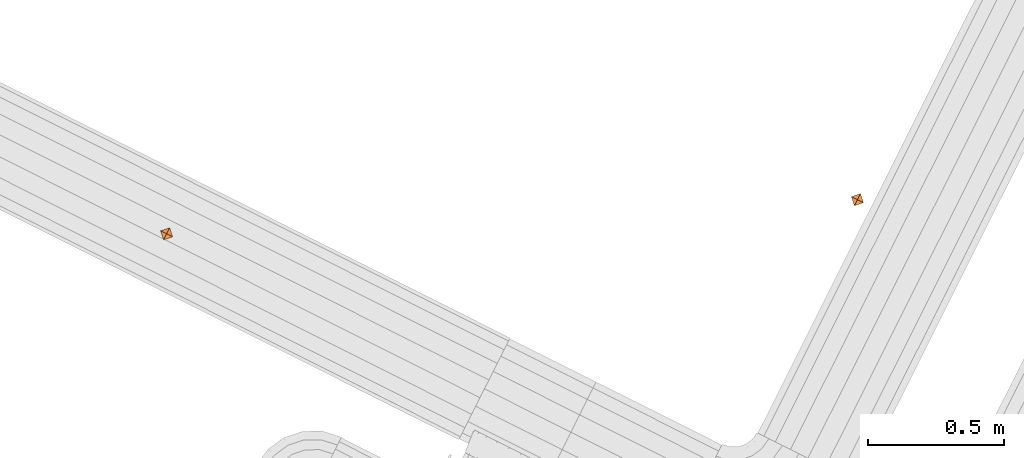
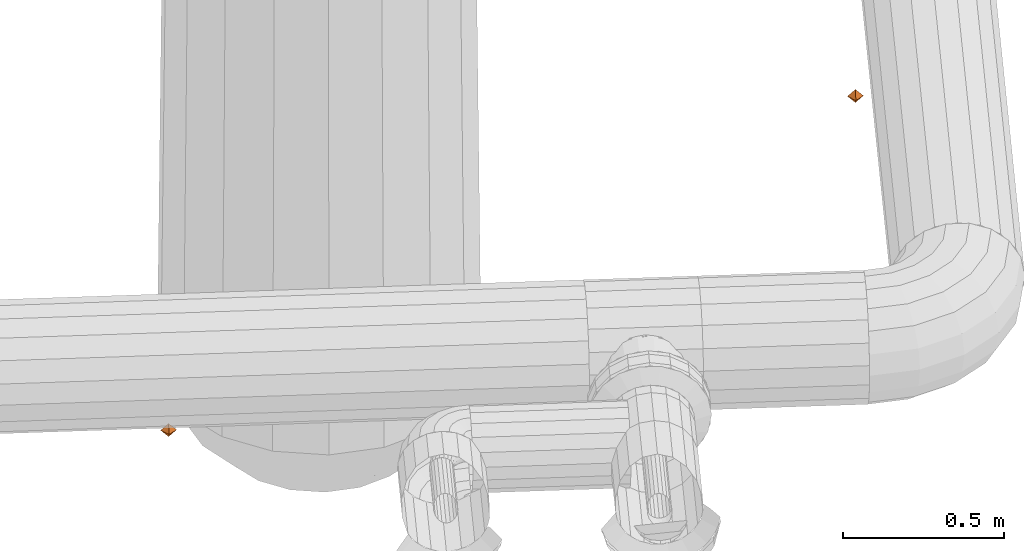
# One storey, part 151 of 152: 2 proxies.
"""IFC2X3 building model written with IfcOpenShell, lengths in metres."""

from ifc_helpers import new_model, si_unit, derived_unit, direction, frame, origin, place, context, subcontext, project, spatial, faceted_brep, type_object, element, save


model = new_model("IFC2X3")

# Units and contexts
model_context = context("Model", 3, precision=5.2338327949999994e-05, world=origin(), true_north=direction((0.0, 1.0)))
body_context = subcontext(model_context, "Body", "Model", "MODEL_VIEW")
ifc_project = project(units=[si_unit("LENGTHUNIT", "METRE"), si_unit("AREAUNIT", "SQUARE_METRE"), si_unit("VOLUMEUNIT", "CUBIC_METRE"), si_unit("MASSUNIT", "GRAM", prefix="KILO"), si_unit("PLANEANGLEUNIT", "RADIAN"), derived_unit("THERMALTRANSMITTANCEUNIT", [(si_unit("MASSUNIT", "GRAM", prefix="KILO"), 1), (si_unit("THERMODYNAMICTEMPERATUREUNIT", "KELVIN"), -1), (si_unit("TIMEUNIT", "SECOND"), -3)])], contexts=[model_context])

# Site, building, storey
site_placement = place(None, frame((0.0, 0.0, 0.0), z_axis=(0.0, 0.0, 1.0), x_axis=(0.8939966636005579, -0.4480736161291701, 0.0)))
site = spatial("IfcSite", under=ifc_project, at=site_placement, Name="Default", CompositionType="ELEMENT")
building_placement = place(site_placement, origin())
building = spatial("IfcBuilding", under=site, at=building_placement, CompositionType="ELEMENT")
storey_placement = place(building_placement, frame((0.0, 0.0, 2.7499999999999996)))
storey = spatial("IfcBuildingStorey", under=building, at=storey_placement, Name="1. Obergeschoss", CompositionType="ELEMENT", Elevation=2.7499999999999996)

# Proxies
building_element_proxy_type = type_object("IfcBuildingElementProxyType", Name="DirectShape:Gebäudeautomation", PredefinedType="NOTDEFINED")
proxy_1_placement = place(storey_placement, origin())
element("IfcBuildingElementProxy", 1, at=proxy_1_placement, inside=storey, type_object=building_element_proxy_type, Name="DirectShape:Wärmeversorgungsnetz Wärmemengenzähler", context=body_context, shape_type="Brep", body=[
    faceted_brep([(13.578406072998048, 7.997993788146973, 2.607961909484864), (13.5534052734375, 7.997993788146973, 2.6329621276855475), (13.578406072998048, 8.022993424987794, 2.6329621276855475), (13.578406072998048, 7.972993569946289, 2.6329621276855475), (13.603405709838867, 7.997993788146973, 2.6329621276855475), (13.578406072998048, 7.997993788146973, 2.657962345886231)], [[[0, 1, 2]], [[0, 3, 1]], [[0, 4, 3]], [[0, 2, 4]], [[5, 2, 1]], [[5, 1, 3]], [[5, 3, 4]], [[5, 4, 2]]]),
])
proxy_2_placement = place(storey_placement, origin())
element("IfcBuildingElementProxy", 2, at=proxy_2_placement, inside=storey, type_object=building_element_proxy_type, Name="DirectShape:Wärmespeicher Vorlauffühler", context=body_context, shape_type="Brep", body=[
    faceted_brep([(15.794074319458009, 9.248863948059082, 2.9114782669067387), (15.769074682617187, 9.248863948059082, 2.936477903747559), (15.794074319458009, 9.273864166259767, 2.936477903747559), (15.794074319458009, 9.223864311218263, 2.936477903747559), (15.819073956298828, 9.248863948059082, 2.936477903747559), (15.794074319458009, 9.248863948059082, 2.9614781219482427)], [[[0, 1, 2]], [[0, 3, 1]], [[0, 4, 3]], [[0, 2, 4]], [[5, 2, 1]], [[5, 1, 3]], [[5, 3, 4]], [[5, 4, 2]]]),
])

save(model, "model.ifc")
